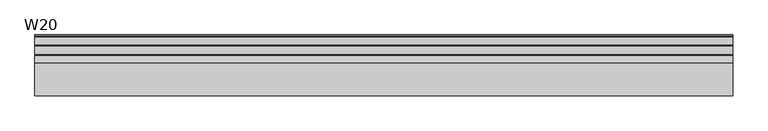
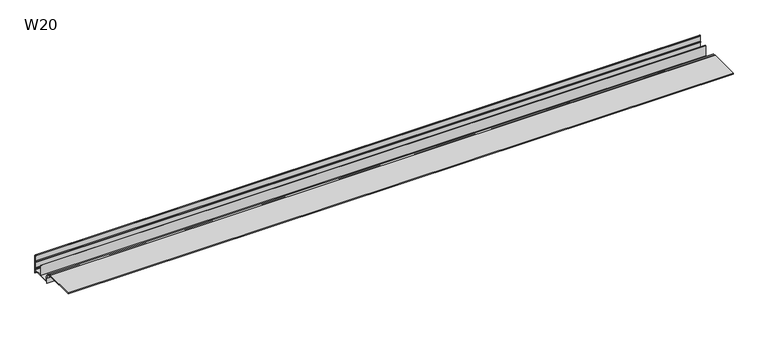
"""IFC4 building model written with IfcOpenShell, lengths in millimetres: proxy geometry, W20 Profil okapowy prosty : W20."""

import ifcopenshell
import ifcopenshell.guid

model = None  # the IFC model being written
_history = None  # IfcOwnerHistory: only IFC2X3 demands one
_inside = {}  # id of a spatial element -> (the spatial element, [elements in it])
_under = {}  # id of a project, library or spatial element -> (it, [spatial elements below it])
_declared = {}  # id of a project -> (the project, [libraries it declares])
_typed = {}  # id of a type object -> (the type object, [elements of that type])
_made_of = {}  # id of a material, layer set ... -> (it, [elements and type objects made of it])


def new_model(schema):
    """Start an empty IFC model of exactly this schema.

    Asked for "IFC4X3", IfcOpenShell would pick the latest addendum, in which some entities
    have other attributes; the version numbers below select the first issue.
    IFC2X3 requires an IfcOwnerHistory on every rooted entity: one is made here for all.
    """
    global model, _history
    if schema == "IFC4X3":
        model = ifcopenshell.file(schema_version=(4, 3, 0, 0))
    else:
        model = ifcopenshell.file(schema=schema)
    _inside.clear()
    _under.clear()
    _declared.clear()
    _typed.clear()
    _made_of.clear()
    _history = None
    if model.schema == "IFC2X3":
        org = make("IfcOrganization", Name="unknown")
        user = make(
            "IfcPersonAndOrganization",
            ThePerson=make("IfcPerson", FamilyName="unknown"),
            TheOrganization=org,
        )
        app = make(
            "IfcApplication",
            ApplicationDeveloper=org,
            Version="unknown",
            ApplicationFullName="unknown",
            ApplicationIdentifier="unknown",
        )
        _history = make(
            "IfcOwnerHistory",
            OwningUser=user,
            OwningApplication=app,
            ChangeAction="ADDED",
            CreationDate=0,
        )
    return model


def make(cls, **values):
    """One entity of the class cls with the attributes given. An attribute that is None is left unset."""
    return model.create_entity(
        cls, **{name: value for name, value in values.items() if value is not None}
    )


def rooted(cls, **values):
    """An entity with a GlobalId (a new one), such as an element, a storey or a relation."""
    return make(cls, GlobalId=ifcopenshell.guid.new(), OwnerHistory=_history, **values)


def si_unit(unit_type, name, prefix=None):
    """IfcSIUnit, for example si_unit("LENGTHUNIT", "METRE", prefix="MILLI")."""
    return make("IfcSIUnit", UnitType=unit_type, Prefix=prefix, Name=name)


def assignment(units):
    """IfcUnitAssignment: the units of a project."""
    return None if units is None else make("IfcUnitAssignment", Units=units)


def point(xyz):
    """IfcCartesianPoint."""
    return None if xyz is None else make("IfcCartesianPoint", Coordinates=xyz)


def direction(xyz):
    """IfcDirection."""
    return None if xyz is None else make("IfcDirection", DirectionRatios=xyz)


def frame(location, z_axis=None, x_axis=None):
    """IfcAxis2Placement3D, a coordinate frame: its origin and axes. An axis left out is left unset."""
    return make(
        "IfcAxis2Placement3D",
        Location=point(location),
        Axis=direction(z_axis),
        RefDirection=direction(x_axis),
    )


def frame_2d(location, x_axis=None):
    """IfcAxis2Placement2D, a coordinate frame in the plane: its origin and x axis."""
    return make(
        "IfcAxis2Placement2D", Location=point(location), RefDirection=direction(x_axis)
    )


def origin():
    """The frame at (0, 0, 0) with its axes left unset."""
    return frame((0.0, 0.0, 0.0))


def place(relative_to, where):
    """IfcLocalPlacement: puts the frame where relative to a parent placement (None: the world)."""
    return make(
        "IfcLocalPlacement", PlacementRelTo=relative_to, RelativePlacement=where
    )


def context(
    kind, dimensions, precision=None, world=None, true_north=None, identifier=None
):
    """IfcGeometricRepresentationContext, for example the 3D "Model" context."""
    return make(
        "IfcGeometricRepresentationContext",
        ContextIdentifier=identifier,
        ContextType=kind,
        CoordinateSpaceDimension=dimensions,
        Precision=precision,
        WorldCoordinateSystem=world,
        TrueNorth=true_north,
    )


def project(units=None, contexts=None):
    """IfcProject with its units and contexts."""
    return rooted(
        "IfcProject",
        Name="project",
        RepresentationContexts=contexts,
        UnitsInContext=assignment(units),
    )


def spatial(cls, under=None, at=None, **own):
    """A site, building, storey or space (cls), placed at a placement, below another one or the project."""
    s = rooted(cls, ObjectPlacement=at, **own)
    if under is not None:
        _under.setdefault(under.id(), (under, []))[1].append(s)
    return s


def polyline(points):
    """IfcPolyline through the points."""
    return make("IfcPolyline", Points=[point(p) for p in points])


def circle_curve(where, radius):
    """IfcCircle in the frame where."""
    return make("IfcCircle", Position=where, Radius=radius)


def trimmed(basis, trim1, trim2, sense, master):
    """IfcTrimmedCurve: the piece of a basis curve between two trims."""
    return make(
        "IfcTrimmedCurve",
        BasisCurve=basis,
        Trim1=trim1,
        Trim2=trim2,
        SenseAgreement=sense,
        MasterRepresentation=master,
    )


def segment(curve, same_sense, transition):
    """IfcCompositeCurveSegment."""
    return make(
        "IfcCompositeCurveSegment",
        Transition=transition,
        SameSense=same_sense,
        ParentCurve=curve,
    )


def composite_curve(segments, self_intersect=None):
    """IfcCompositeCurve: segments joined end to end."""
    return make("IfcCompositeCurve", Segments=segments, SelfIntersect=self_intersect)


def outline(outer, holes=None, kind="AREA"):
    """IfcArbitraryClosedProfileDef: a profile drawn as a closed curve; with holes, ...WithVoids."""
    if holes is None:
        return make("IfcArbitraryClosedProfileDef", ProfileType=kind, OuterCurve=outer)
    return make(
        "IfcArbitraryProfileDefWithVoids",
        ProfileType=kind,
        OuterCurve=outer,
        InnerCurves=holes,
    )


def extrude(swept, where, along, depth):
    """IfcExtrudedAreaSolid: the profile swept, set in the frame where, extruded along a direction by depth."""
    return make(
        "IfcExtrudedAreaSolid",
        SweptArea=swept,
        Position=where,
        ExtrudedDirection=direction(along),
        Depth=depth,
    )


def shape(context_of_items, identifier, shape_type, items):
    """IfcShapeRepresentation: the items that make up one representation, for example the "Body"."""
    return make(
        "IfcShapeRepresentation",
        ContextOfItems=context_of_items,
        RepresentationIdentifier=identifier,
        RepresentationType=shape_type,
        Items=items,
    )


def source(mapping_origin, context_of_items, identifier, shape_type, items):
    """IfcRepresentationMap: a shape defined once, which mapped items show again and again."""
    return make(
        "IfcRepresentationMap",
        MappingOrigin=mapping_origin,
        MappedRepresentation=shape(context_of_items, identifier, shape_type, items),
    )


def transform(
    local_origin,
    x_axis=None,
    y_axis=None,
    z_axis=None,
    scale=None,
    scale2=None,
    scale3=None,
    uniform=True,
):
    """IfcCartesianTransformationOperator3D, or its non-uniform kind. x_axis, y_axis, z_axis: its Axis1, 2, 3."""
    if uniform:
        return make(
            "IfcCartesianTransformationOperator3D",
            Axis1=direction(x_axis),
            Axis2=direction(y_axis),
            LocalOrigin=point(local_origin),
            Scale=scale,
            Axis3=direction(z_axis),
        )
    return make(
        "IfcCartesianTransformationOperator3DnonUniform",
        Axis1=direction(x_axis),
        Axis2=direction(y_axis),
        LocalOrigin=point(local_origin),
        Scale=scale,
        Axis3=direction(z_axis),
        Scale2=scale2,
        Scale3=scale3,
    )


def mapped(mapping_source, mapping_target):
    """IfcMappedItem: shows the shape of a source again, moved by a transform."""
    return make(
        "IfcMappedItem", MappingSource=mapping_source, MappingTarget=mapping_target
    )


def made_of(thing, what):
    """Note that an element or type object is made of a material, layer set ...; save() writes the relation."""
    if what is not None:
        _made_of.setdefault(what.id(), (what, []))[1].append(thing)
    return thing


def element(
    cls,
    number,
    at=None,
    inside=None,
    cuts=None,
    type_object=None,
    material=None,
    context=None,
    identifier="Body",
    shape_type=None,
    held_by="IfcProductDefinitionShape",
    body=None,
    shapes=None,
    **own,
):
    """One element of the class cls, such as IfcWall. Its Tag is "e" and its number.

    at: its placement. inside: the storey or other place that contains it. cuts: it is an
    opening in that element (IfcRelVoidsElement). A single representation is given by context,
    identifier, shape_type and body (its items); several are given by shapes. held_by: the class
    of the entity that holds the representations. save() writes the other relations.
    """
    e = rooted(cls, Tag="e%d" % number, ObjectPlacement=at, **own)
    if body is not None:
        shapes = [shape(context, identifier, shape_type, body)]
    if shapes is not None:
        e.Representation = make(held_by, Representations=shapes)
    if inside is not None:
        _inside.setdefault(inside.id(), (inside, []))[1].append(e)
    if cuts is not None:
        rooted(
            "IfcRelVoidsElement", RelatingBuildingElement=cuts, RelatedOpeningElement=e
        )
    if type_object is not None:
        _typed.setdefault(type_object.id(), (type_object, []))[1].append(e)
    return made_of(e, material)


def aggregate(whole, parts):
    """IfcRelAggregates: a whole, such as a stair, and the parts it consists of."""
    return rooted("IfcRelAggregates", RelatingObject=whole, RelatedObjects=parts)


def save(model, path):
    """Write the relations noted so far, then the file.

    IfcRelAggregates (storeys below a building ...), IfcRelContainedInSpatialStructure (elements
    in a storey), IfcRelDefinesByType, IfcRelAssociatesMaterial and IfcRelDeclares: one each for
    every whole, place, type object, material and project.
    """
    for whole, parts in _under.values():
        aggregate(whole, parts)
    for where, things in _inside.values():
        rooted(
            "IfcRelContainedInSpatialStructure",
            RelatedElements=things,
            RelatingStructure=where,
        )
    for kind, things in _typed.values():
        rooted("IfcRelDefinesByType", RelatedObjects=things, RelatingType=kind)
    for what, things in _made_of.values():
        rooted("IfcRelAssociatesMaterial", RelatedObjects=things, RelatingMaterial=what)
    for by, libraries in _declared.values():
        rooted("IfcRelDeclares", RelatingContext=by, RelatedDefinitions=libraries)
    model.write(path)


def w20_ab5f31d4(model_context):
    return source(origin(), model_context, "Body", "SweptSolid", [
        extrude(outline(composite_curve([segment(polyline([(0.1599998, -5.7558512), (0.1599998, -1.9994483)]), True, "CONTINUOUS"), segment(trimmed(circle_curve(frame_2d((-1.2000002, -13.6)), 11.68), [point((0.1599998, -1.9994483))], [point((-1.2000002, -1.92))], True, "CARTESIAN"), True, "CONTINUOUS"), segment(polyline([(-1.2000002, -1.92), (-63.8400002, -1.92), (-63.8400002, 0.0), (-1.2000002, 0.0)]), True, "CONTINUOUS"), segment(trimmed(circle_curve(frame_2d((-1.2000002, -13.6)), 13.6), [point((-1.2000002, 0.0))], [point((12.3999998, -13.6))], False, "CARTESIAN"), True, "CONTINUOUS"), segment(polyline([(12.3999998, -13.6), (12.3999998, -18.4)]), True, "CONTINUOUS"), segment(trimmed(circle_curve(frame_2d((13.9999998, -18.4)), 1.6), [point((12.3999998, -18.4))], [point((13.9999998, -20.0))], True, "CARTESIAN"), True, "CONTINUOUS"), segment(polyline([(13.9999998, -20.0), (31.1890625, -20.0), (31.1890625, 1.12487), (32.3890625, 1.12487), (32.3890625, -20.0), (51.1999998, -20.0), (51.1999998, -16.8), (48.6399998, -16.8), (48.6399998, -15.6), (51.1999998, -15.6), (51.1999998, -2.456), (48.6399998, -2.456), (48.6399998, -1.256), (51.1999998, -1.256), (51.1999998, 9.434066)]), True, "CONTINUOUS"), segment(trimmed(circle_curve(frame_2d((50.5599998, 9.434066)), 0.64), [point((51.1999998, 9.434066))], [point((50.6947367, 10.0597224))], True, "CARTESIAN"), True, "CONTINUOUS"), segment(polyline([(50.6947367, 10.0597224), (50.9473682, 11.2328282)]), True, "CONTINUOUS"), segment(trimmed(circle_curve(frame_2d((50.5599998, 9.434066)), 1.84), [point((50.9473682, 11.2328282))], [point((52.3999998, 9.434066))], False, "CARTESIAN"), True, "CONTINUOUS"), segment(polyline([(52.3999998, 9.434066), (52.3999998, -27.6828427), (51.1983148, -26.4811576), (51.1983148, -21.92), (11.6799998, -21.92), (11.6799998, -25.0068739), (10.4799998, -24.2657388), (10.4799998, -13.6)]), True, "CONTINUOUS"), segment(trimmed(circle_curve(frame_2d((-1.2000002, -13.6)), 11.68), [point((10.4799998, -13.6))], [point((1.1999998, -2.1692345))], True, "CARTESIAN"), True, "CONTINUOUS"), segment(polyline([(1.1999998, -2.1692345), (1.1999998, -5.7558512), (0.1599998, -5.7558512)]), True, "CONTINUOUS")], self_intersect=False)), frame((0.0, 0.0, 0.0), z_axis=(1.0, 0.0, 0.0), x_axis=(0.0, 1.0, 0.0)), (0.0, 0.0, 1.0), 1337.3628589),
    ])


if __name__ == "__main__":
    model = new_model("IFC4")
    model_context = context("Model", 3, world=origin())
    ifc_project = project(units=[si_unit("LENGTHUNIT", "METRE", prefix="MILLI")], contexts=[model_context])
    site = spatial("IfcSite", under=ifc_project)
    building = spatial("IfcBuilding", under=site)
    placement = place(None, origin())
    w20_shape = w20_ab5f31d4(model_context)
    element("IfcBuildingElementProxy", 1, Name="W20 Profil okapowy prosty : W20", ObjectType="W20 Profil okapowy prosty : W20", at=placement, inside=building, context=model_context, shape_type="MappedRepresentation", body=[
        mapped(w20_shape, transform((0.0, 0.0, 0.0), x_axis=(1.0, 0.0, 0.0), y_axis=(0.0, 1.0, 0.0), z_axis=(0.0, 0.0, 1.0))),
    ])
    save(model, "model.ifc")
